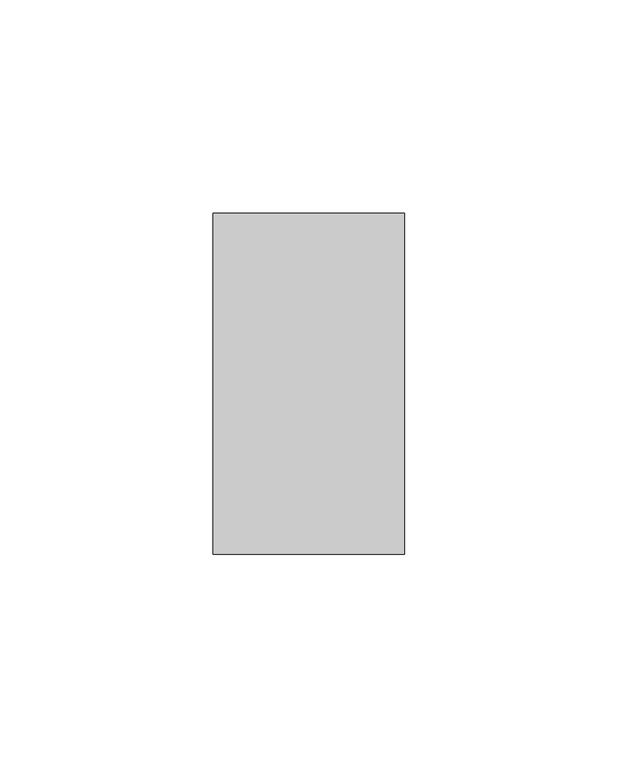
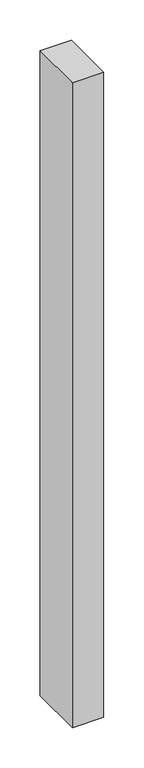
"""IFC4 building model written with IfcOpenShell, lengths in millimetres: member geometry, Obdélníková příčel : VERTI ELEMENT - vertikální."""

import ifcopenshell
import ifcopenshell.guid

model = None  # the IFC model being written
_history = None  # IfcOwnerHistory: only IFC2X3 demands one
_inside = {}  # id of a spatial element -> (the spatial element, [elements in it])
_under = {}  # id of a project, library or spatial element -> (it, [spatial elements below it])
_declared = {}  # id of a project -> (the project, [libraries it declares])
_typed = {}  # id of a type object -> (the type object, [elements of that type])
_made_of = {}  # id of a material, layer set ... -> (it, [elements and type objects made of it])


def new_model(schema):
    """Start an empty IFC model of exactly this schema.

    Asked for "IFC4X3", IfcOpenShell would pick the latest addendum, in which some entities
    have other attributes; the version numbers below select the first issue.
    IFC2X3 requires an IfcOwnerHistory on every rooted entity: one is made here for all.
    """
    global model, _history
    if schema == "IFC4X3":
        model = ifcopenshell.file(schema_version=(4, 3, 0, 0))
    else:
        model = ifcopenshell.file(schema=schema)
    _inside.clear()
    _under.clear()
    _declared.clear()
    _typed.clear()
    _made_of.clear()
    _history = None
    if model.schema == "IFC2X3":
        org = make("IfcOrganization", Name="unknown")
        user = make(
            "IfcPersonAndOrganization",
            ThePerson=make("IfcPerson", FamilyName="unknown"),
            TheOrganization=org,
        )
        app = make(
            "IfcApplication",
            ApplicationDeveloper=org,
            Version="unknown",
            ApplicationFullName="unknown",
            ApplicationIdentifier="unknown",
        )
        _history = make(
            "IfcOwnerHistory",
            OwningUser=user,
            OwningApplication=app,
            ChangeAction="ADDED",
            CreationDate=0,
        )
    return model


def make(cls, **values):
    """One entity of the class cls with the attributes given. An attribute that is None is left unset."""
    return model.create_entity(
        cls, **{name: value for name, value in values.items() if value is not None}
    )


def rooted(cls, **values):
    """An entity with a GlobalId (a new one), such as an element, a storey or a relation."""
    return make(cls, GlobalId=ifcopenshell.guid.new(), OwnerHistory=_history, **values)


def si_unit(unit_type, name, prefix=None):
    """IfcSIUnit, for example si_unit("LENGTHUNIT", "METRE", prefix="MILLI")."""
    return make("IfcSIUnit", UnitType=unit_type, Prefix=prefix, Name=name)


def assignment(units):
    """IfcUnitAssignment: the units of a project."""
    return None if units is None else make("IfcUnitAssignment", Units=units)


def point(xyz):
    """IfcCartesianPoint."""
    return None if xyz is None else make("IfcCartesianPoint", Coordinates=xyz)


def direction(xyz):
    """IfcDirection."""
    return None if xyz is None else make("IfcDirection", DirectionRatios=xyz)


def frame(location, z_axis=None, x_axis=None):
    """IfcAxis2Placement3D, a coordinate frame: its origin and axes. An axis left out is left unset."""
    return make(
        "IfcAxis2Placement3D",
        Location=point(location),
        Axis=direction(z_axis),
        RefDirection=direction(x_axis),
    )


def origin():
    """The frame at (0, 0, 0) with its axes left unset."""
    return frame((0.0, 0.0, 0.0))


def place(relative_to, where):
    """IfcLocalPlacement: puts the frame where relative to a parent placement (None: the world)."""
    return make(
        "IfcLocalPlacement", PlacementRelTo=relative_to, RelativePlacement=where
    )


def context(
    kind, dimensions, precision=None, world=None, true_north=None, identifier=None
):
    """IfcGeometricRepresentationContext, for example the 3D "Model" context."""
    return make(
        "IfcGeometricRepresentationContext",
        ContextIdentifier=identifier,
        ContextType=kind,
        CoordinateSpaceDimension=dimensions,
        Precision=precision,
        WorldCoordinateSystem=world,
        TrueNorth=true_north,
    )


def project(units=None, contexts=None):
    """IfcProject with its units and contexts."""
    return rooted(
        "IfcProject",
        Name="project",
        RepresentationContexts=contexts,
        UnitsInContext=assignment(units),
    )


def spatial(cls, under=None, at=None, **own):
    """A site, building, storey or space (cls), placed at a placement, below another one or the project."""
    s = rooted(cls, ObjectPlacement=at, **own)
    if under is not None:
        _under.setdefault(under.id(), (under, []))[1].append(s)
    return s


def polyline(points):
    """IfcPolyline through the points."""
    return make("IfcPolyline", Points=[point(p) for p in points])


def outline(outer, holes=None, kind="AREA"):
    """IfcArbitraryClosedProfileDef: a profile drawn as a closed curve; with holes, ...WithVoids."""
    if holes is None:
        return make("IfcArbitraryClosedProfileDef", ProfileType=kind, OuterCurve=outer)
    return make(
        "IfcArbitraryProfileDefWithVoids",
        ProfileType=kind,
        OuterCurve=outer,
        InnerCurves=holes,
    )


def extrude(swept, where, along, depth):
    """IfcExtrudedAreaSolid: the profile swept, set in the frame where, extruded along a direction by depth."""
    return make(
        "IfcExtrudedAreaSolid",
        SweptArea=swept,
        Position=where,
        ExtrudedDirection=direction(along),
        Depth=depth,
    )


def shape(context_of_items, identifier, shape_type, items):
    """IfcShapeRepresentation: the items that make up one representation, for example the "Body"."""
    return make(
        "IfcShapeRepresentation",
        ContextOfItems=context_of_items,
        RepresentationIdentifier=identifier,
        RepresentationType=shape_type,
        Items=items,
    )


def source(mapping_origin, context_of_items, identifier, shape_type, items):
    """IfcRepresentationMap: a shape defined once, which mapped items show again and again."""
    return make(
        "IfcRepresentationMap",
        MappingOrigin=mapping_origin,
        MappedRepresentation=shape(context_of_items, identifier, shape_type, items),
    )


def transform(
    local_origin,
    x_axis=None,
    y_axis=None,
    z_axis=None,
    scale=None,
    scale2=None,
    scale3=None,
    uniform=True,
):
    """IfcCartesianTransformationOperator3D, or its non-uniform kind. x_axis, y_axis, z_axis: its Axis1, 2, 3."""
    if uniform:
        return make(
            "IfcCartesianTransformationOperator3D",
            Axis1=direction(x_axis),
            Axis2=direction(y_axis),
            LocalOrigin=point(local_origin),
            Scale=scale,
            Axis3=direction(z_axis),
        )
    return make(
        "IfcCartesianTransformationOperator3DnonUniform",
        Axis1=direction(x_axis),
        Axis2=direction(y_axis),
        LocalOrigin=point(local_origin),
        Scale=scale,
        Axis3=direction(z_axis),
        Scale2=scale2,
        Scale3=scale3,
    )


def mapped(mapping_source, mapping_target):
    """IfcMappedItem: shows the shape of a source again, moved by a transform."""
    return make(
        "IfcMappedItem", MappingSource=mapping_source, MappingTarget=mapping_target
    )


def made_of(thing, what):
    """Note that an element or type object is made of a material, layer set ...; save() writes the relation."""
    if what is not None:
        _made_of.setdefault(what.id(), (what, []))[1].append(thing)
    return thing


def element(
    cls,
    number,
    at=None,
    inside=None,
    cuts=None,
    type_object=None,
    material=None,
    context=None,
    identifier="Body",
    shape_type=None,
    held_by="IfcProductDefinitionShape",
    body=None,
    shapes=None,
    **own,
):
    """One element of the class cls, such as IfcWall. Its Tag is "e" and its number.

    at: its placement. inside: the storey or other place that contains it. cuts: it is an
    opening in that element (IfcRelVoidsElement). A single representation is given by context,
    identifier, shape_type and body (its items); several are given by shapes. held_by: the class
    of the entity that holds the representations. save() writes the other relations.
    """
    e = rooted(cls, Tag="e%d" % number, ObjectPlacement=at, **own)
    if body is not None:
        shapes = [shape(context, identifier, shape_type, body)]
    if shapes is not None:
        e.Representation = make(held_by, Representations=shapes)
    if inside is not None:
        _inside.setdefault(inside.id(), (inside, []))[1].append(e)
    if cuts is not None:
        rooted(
            "IfcRelVoidsElement", RelatingBuildingElement=cuts, RelatedOpeningElement=e
        )
    if type_object is not None:
        _typed.setdefault(type_object.id(), (type_object, []))[1].append(e)
    return made_of(e, material)


def aggregate(whole, parts):
    """IfcRelAggregates: a whole, such as a stair, and the parts it consists of."""
    return rooted("IfcRelAggregates", RelatingObject=whole, RelatedObjects=parts)


def save(model, path):
    """Write the relations noted so far, then the file.

    IfcRelAggregates (storeys below a building ...), IfcRelContainedInSpatialStructure (elements
    in a storey), IfcRelDefinesByType, IfcRelAssociatesMaterial and IfcRelDeclares: one each for
    every whole, place, type object, material and project.
    """
    for whole, parts in _under.values():
        aggregate(whole, parts)
    for where, things in _inside.values():
        rooted(
            "IfcRelContainedInSpatialStructure",
            RelatedElements=things,
            RelatingStructure=where,
        )
    for kind, things in _typed.values():
        rooted("IfcRelDefinesByType", RelatedObjects=things, RelatingType=kind)
    for what, things in _made_of.values():
        rooted("IfcRelAssociatesMaterial", RelatedObjects=things, RelatingMaterial=what)
    for by, libraries in _declared.values():
        rooted("IfcRelDeclares", RelatingContext=by, RelatedDefinitions=libraries)
    model.write(path)


def member_28485871(model_context):
    return source(origin(), model_context, "Body", "SweptSolid", [
        extrude(outline(polyline([(0.0, 40.0), (0.0, -40.0), (-45.0, -40.0), (-45.0, 40.0), (0.0, 40.0)])), frame((0.0, 0.0, -977.5), z_axis=(0.0, 0.0, 1.0), x_axis=(1.0, 0.0, 0.0)), (0.0, 0.0, 1.0), 977.5),
    ])


if __name__ == "__main__":
    model = new_model("IFC4")
    model_context = context("Model", 3, world=origin())
    ifc_project = project(units=[si_unit("LENGTHUNIT", "METRE", prefix="MILLI")], contexts=[model_context])
    site = spatial("IfcSite", under=ifc_project)
    building = spatial("IfcBuilding", under=site)
    placement = place(None, origin())
    member_shape = member_28485871(model_context)
    element("IfcMember", 1, ObjectType="Obdélníková příčel : VERTI ELEMENT - vertikální", at=placement, inside=building, context=model_context, shape_type="MappedRepresentation", body=[
        mapped(member_shape, transform((0.0, 0.0, 0.0), x_axis=(1.0, 0.0, 0.0), y_axis=(0.0, 1.0, 0.0), z_axis=(0.0, 0.0, 1.0))),
    ])
    save(model, "model.ifc")
